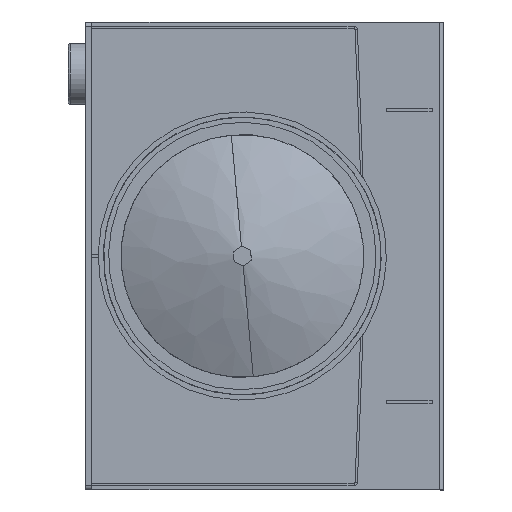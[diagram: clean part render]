
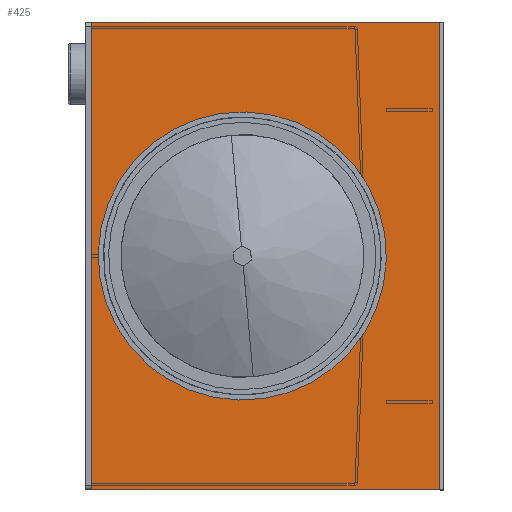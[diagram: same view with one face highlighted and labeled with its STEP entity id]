
A CAD part, left-side view. The second image highlights one B-rep face of the part: STEP entity #425.
In plain terms, the highlighted planar face has unit normal (-1, 0, 0) as drawn and (1, 0, 0) by its records, which use the part's own axes.
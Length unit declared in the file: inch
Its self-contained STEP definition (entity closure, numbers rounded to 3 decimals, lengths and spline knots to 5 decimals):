
#96 = VERTEX_POINT ( 'NONE', #6800 ) ;
#393 = DIRECTION ( 'NONE',  ( 1., 0., 0. ) ) ;
#419 = VECTOR ( 'NONE', #3820, 39.37008 ) ;
#425 = ADVANCED_FACE ( 'NONE', ( #2616, #838 ), #3286, .F. ) ;
#475 = DIRECTION ( 'NONE',  ( 1., 0., 0. ) ) ;
#838 = FACE_OUTER_BOUND ( 'NONE', #1491, .T. ) ;
#867 = CARTESIAN_POINT ( 'NONE',  ( 0., -9.90625, 13.5 ) ) ;
#922 = ORIENTED_EDGE ( 'NONE', *, *, #4558, .T. ) ;
#963 = AXIS2_PLACEMENT_3D ( 'NONE', #6907, #2027, #5047 ) ;
#1104 = CARTESIAN_POINT ( 'NONE',  ( 0., 10.15625, -13.5 ) ) ;
#1160 = VECTOR ( 'NONE', #7145, 39.37008 ) ;
#1162 = LINE ( 'NONE', #5939, #1160 ) ;
#1181 = ORIENTED_EDGE ( 'NONE', *, *, #6647, .T. ) ;
#1457 = LINE ( 'NONE', #2605, #419 ) ;
#1491 = EDGE_LOOP ( 'NONE', ( #6651, #1181, #922, #2570 ) ) ;
#1552 = VECTOR ( 'NONE', #3777, 39.37008 ) ;
#1566 = DIRECTION ( 'NONE',  ( 0., 0., -1. ) ) ;
#2027 = DIRECTION ( 'NONE',  ( -1., 0., 0. ) ) ;
#2239 = CARTESIAN_POINT ( 'NONE',  ( 0., 1.47825, 0. ) ) ;
#2368 = VERTEX_POINT ( 'NONE', #2647 ) ;
#2570 = ORIENTED_EDGE ( 'NONE', *, *, #6801, .T. ) ;
#2605 = CARTESIAN_POINT ( 'NONE',  ( 0., -10.15625, 13.5 ) ) ;
#2616 = FACE_BOUND ( 'NONE', #6745, .T. ) ;
#2623 = VERTEX_POINT ( 'NONE', #5687 ) ;
#2647 = CARTESIAN_POINT ( 'NONE',  ( 0., 10.15625, 13.5 ) ) ;
#2770 = VERTEX_POINT ( 'NONE', #3477 ) ;
#2932 = CARTESIAN_POINT ( 'NONE',  ( 0., -10.15625, -13.5 ) ) ;
#3088 = EDGE_CURVE ( 'NONE', #96, #6126, #6270, .T. ) ;
#3286 = PLANE ( 'NONE',  #963 ) ;
#3477 = CARTESIAN_POINT ( 'NONE',  ( 0., 1.47825, 7. ) ) ;
#3683 = AXIS2_PLACEMENT_3D ( 'NONE', #5793, #393, #1566 ) ;
#3734 = ORIENTED_EDGE ( 'NONE', *, *, #7561, .F. ) ;
#3777 = DIRECTION ( 'NONE',  ( 0., 0., -1. ) ) ;
#3820 = DIRECTION ( 'NONE',  ( 0., -1., 0. ) ) ;
#3939 = CIRCLE ( 'NONE', #6098, 7. ) ;
#4075 = VERTEX_POINT ( 'NONE', #1104 ) ;
#4085 = DIRECTION ( 'NONE',  ( 0., 1., 0. ) ) ;
#4558 = EDGE_CURVE ( 'NONE', #4075, #2368, #1162, .T. ) ;
#5042 = CARTESIAN_POINT ( 'NONE',  ( 0., -9.90625, -13.5 ) ) ;
#5047 = DIRECTION ( 'NONE',  ( 0., 0., 1. ) ) ;
#5155 = ORIENTED_EDGE ( 'NONE', *, *, #6953, .F. ) ;
#5287 = DIRECTION ( 'NONE',  ( 0., 0., -1. ) ) ;
#5687 = CARTESIAN_POINT ( 'NONE',  ( 0., 1.47825, -7. ) ) ;
#5793 = CARTESIAN_POINT ( 'NONE',  ( 0., 1.47825, 0. ) ) ;
#5939 = CARTESIAN_POINT ( 'NONE',  ( 0., 10.15625, 13.5 ) ) ;
#5981 = LINE ( 'NONE', #2932, #6323 ) ;
#6098 = AXIS2_PLACEMENT_3D ( 'NONE', #2239, #475, #5287 ) ;
#6126 = VERTEX_POINT ( 'NONE', #5042 ) ;
#6270 = LINE ( 'NONE', #867, #1552 ) ;
#6323 = VECTOR ( 'NONE', #4085, 39.37008 ) ;
#6647 = EDGE_CURVE ( 'NONE', #6126, #4075, #5981, .T. ) ;
#6651 = ORIENTED_EDGE ( 'NONE', *, *, #3088, .T. ) ;
#6745 = EDGE_LOOP ( 'NONE', ( #3734, #5155 ) ) ;
#6800 = CARTESIAN_POINT ( 'NONE',  ( 0., -9.90625, 13.5 ) ) ;
#6801 = EDGE_CURVE ( 'NONE', #2368, #96, #1457, .T. ) ;
#6825 = CIRCLE ( 'NONE', #3683, 7. ) ;
#6907 = CARTESIAN_POINT ( 'NONE',  ( 0., 0., 0. ) ) ;
#6953 = EDGE_CURVE ( 'NONE', #2770, #2623, #6825, .T. ) ;
#7145 = DIRECTION ( 'NONE',  ( 0., 0., 1. ) ) ;
#7561 = EDGE_CURVE ( 'NONE', #2623, #2770, #3939, .T. ) ;
